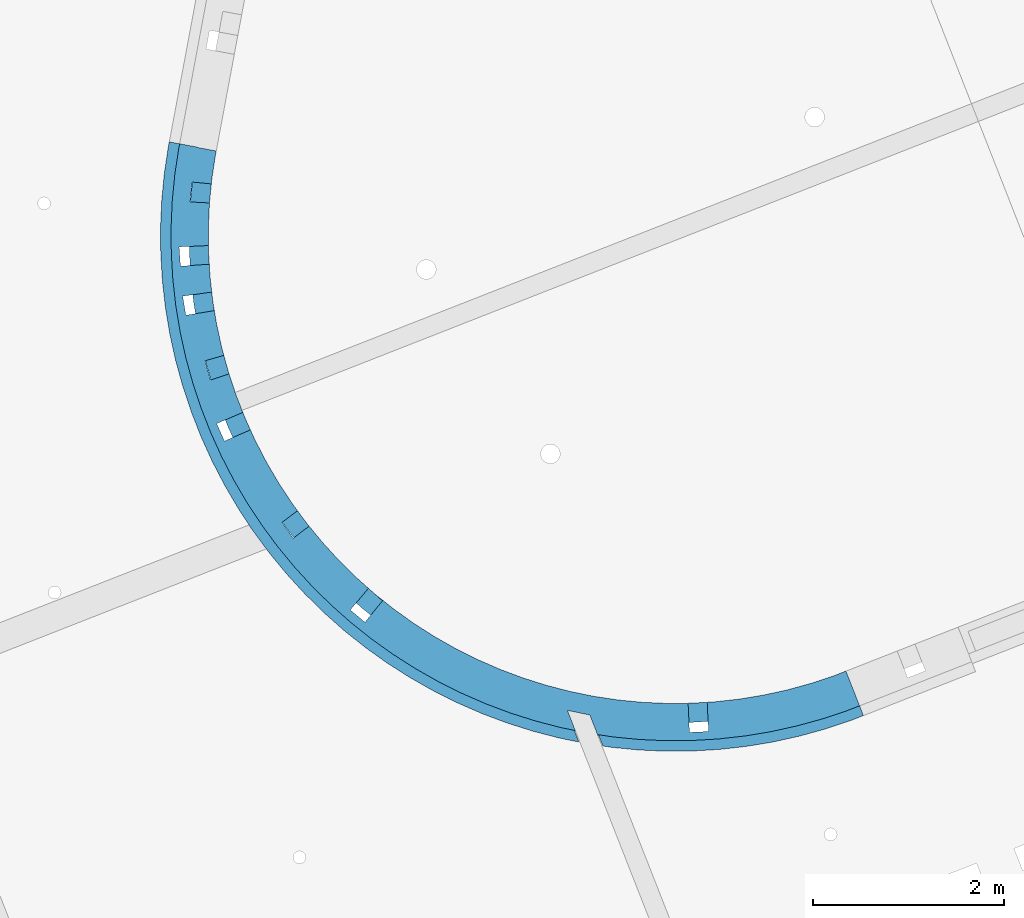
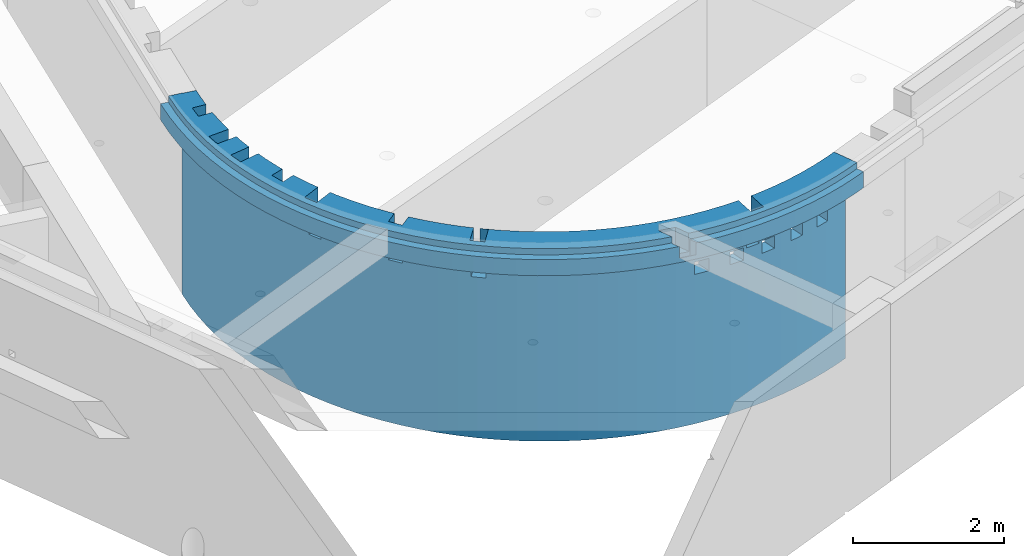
# One storey, part 15 of 28: 1 wall, 14 openings.
"""IFC2X3 building model written with IfcOpenShell, lengths in metres."""

from ifc_helpers import new_model, entity, si_unit, converted_unit, direction, frame, origin, origin_with_axes, place, context, subcontext, project, spatial, polyline, outline, extrude, clip, bounded_halfspace, material, element, save


model = new_model("IFC2X3")

# Units and contexts
model_context = context("Model", 3, precision=1e-05, world=origin(), true_north=direction((-0.407059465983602, -0.913401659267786)))
body_context = subcontext(model_context, "Body", "Model", "MODEL_VIEW")
ifc_project = project(units=[si_unit("LENGTHUNIT", "METRE"), si_unit("AREAUNIT", "SQUARE_METRE"), si_unit("VOLUMEUNIT", "CUBIC_METRE"), si_unit("MASSUNIT", "GRAM", prefix="KILO"), converted_unit("PLANEANGLEUNIT", "DEGREE", entity("IfcPlaneAngleMeasure", 0.0174532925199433), si_unit("PLANEANGLEUNIT", "RADIAN"), dimensions=[0, 0, 0, 0, 0, 0, 0])], contexts=[model_context])

# Site, buildings, storey
site_placement = place(None, origin())
site = spatial("IfcSite", under=ifc_project, at=site_placement, Name="Site", CompositionType="ELEMENT")
building_1_placement = place(site_placement, origin())
building_1 = spatial("IfcBuilding", under=site, at=building_1_placement, Name="Site", CompositionType="COMPLEX")
building_2_placement = place(building_1_placement, origin())
building_2 = spatial("IfcBuilding", under=building_1, at=building_2_placement, Name="Bâtiments", CompositionType="ELEMENT")
storey_placement = place(building_2_placement, frame((0.0, 0.0, -5.3)))
storey = spatial("IfcBuildingStorey", under=building_2, at=storey_placement, Name="SOUS-SOL", CompositionType="ELEMENT", Elevation=-5.3)

# Wall, openings
ifc_material = material(Name="Béton")
wall_placement = place(storey_placement, frame((20.0636949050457, -21.2090333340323, 1.81)))
wall = element("IfcWall", 1, at=wall_placement, inside=storey, material=ifc_material, context=body_context, shape_type="Clipping", body=[
    clip(clip(clip(clip(extrude(outline(polyline([(0.385862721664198, 6.31600778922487), (0.386182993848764, 6.31772287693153), (0.386533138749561, 6.31943211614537), (0.0915855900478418, 6.37450810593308), (0.0821501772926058, 6.32844895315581), (0.040089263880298, 6.04958070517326), (0.012680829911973, 5.76889333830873), (0.0, 5.48715619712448), (0.00208153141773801, 5.20514150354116), (0.0189197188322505, 4.9236222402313), (0.050468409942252, 4.64337003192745), (0.0966411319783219, 4.36515303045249), (0.157311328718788, 4.08973380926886), (0.23231270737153, 3.81786727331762), (0.321439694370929, 3.55029858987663), (0.424447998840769, 3.28776114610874), (0.54105528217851, 3.03097453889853), (0.670941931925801, 2.78064260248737), (0.813751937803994, 2.5374514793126), (0.969093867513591, 2.30206773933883), (1.1365419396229, 2.07513655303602), (1.3156371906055, 1.85727992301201), (1.50588873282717, 1.64909497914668), (1.70677510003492, 1.45115234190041), (1.91774567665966, 1.26399455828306), (2.13822220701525, 1.08813461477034), (2.36760038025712, 0.924054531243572), (2.60525148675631, 0.772204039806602), (2.85052414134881, 0.632999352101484), (3.10274606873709, 0.506822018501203), (3.36122594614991, 0.394017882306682), (3.62525529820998, 0.294896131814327), (3.89411043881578, 0.209728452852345), (4.1670544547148, 0.138748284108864), (4.44333922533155, 0.0821501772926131), (4.7222074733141, 0.0400892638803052), (5.00289484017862, 0.012680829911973), (5.28463198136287, 0.0), (5.56664667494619, 0.00208153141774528), (5.84816593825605, 0.0189197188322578), (6.1284181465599, 0.0504684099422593), (6.40663514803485, 0.0966411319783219), (6.68205436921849, 0.157311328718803), (6.95392090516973, 0.232312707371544), (7.22148958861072, 0.321439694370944), (7.35275830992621, 0.372943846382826), (7.24318370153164, 0.652216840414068), (7.24318274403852, 0.652216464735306), (7.17039753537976, 0.837727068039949), (7.17013396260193, 0.838398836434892), (7.05105360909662, 0.791676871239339), (6.80832881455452, 0.710825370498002), (6.56170522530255, 0.642787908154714), (6.3118588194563, 0.587750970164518), (6.05947440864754, 0.545865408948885), (5.80524376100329, 0.517246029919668), (5.54986370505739, 0.501971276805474), (5.29403421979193, 0.500083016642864), (5.03845651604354, 0.511586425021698), (4.7838311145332, 0.536449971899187), (4.53085592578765, 0.574605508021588), (4.28022433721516, 0.62594845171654), (4.03262331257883, 0.690338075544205), (3.78873150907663, 0.767597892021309), (3.54921741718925, 0.857516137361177), (3.31473752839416, 0.95984635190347), (3.08593453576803, 1.07430805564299), (2.86343557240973, 1.20058751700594), (2.64785049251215, 1.33833861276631), (2.43977019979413, 1.48718377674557), (2.23976502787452, 1.64671503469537), (2.04838317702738, 1.81649512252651), (1.86614921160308, 1.99605868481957), (1.69356262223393, 2.18491355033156), (1.53109645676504, 2.3825420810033), (1.37919602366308, 2.58840259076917), (1.2382776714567, 2.80193083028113), (1.1087276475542, 3.0225415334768), (0.990901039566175, 3.24963002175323), (0.885120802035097, 3.48257386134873), (0.791676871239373, 3.72073456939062), (0.791676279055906, 3.7207363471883), (0.779498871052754, 3.75177298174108), (0.781125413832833, 3.75241116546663), (0.710825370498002, 3.96345936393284), (0.642787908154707, 4.2100829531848), (0.587750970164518, 4.45992935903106), (0.545865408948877, 4.71231376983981), (0.517246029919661, 4.96654441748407), (0.501971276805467, 5.22192447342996), (0.500083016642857, 5.47775395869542), (0.511586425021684, 5.73333166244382), (0.536449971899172, 5.98795706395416), (0.574605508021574, 6.2409322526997), (0.582464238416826, 6.27929479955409), (0.385862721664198, 6.31600778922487)]), holes=[polyline([(0.347706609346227, 4.68473627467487), (0.337640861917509, 4.7751600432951), (0.337658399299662, 4.77500515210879), (0.347706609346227, 4.68473627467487)])]), frame((-5.38589408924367, -5.38589408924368, 0.0), z_axis=(0.0, 0.0, 1.0), x_axis=(1.0, 0.0, 0.0)), (0.0, 0.0, 1.0), 3.24), bounded_halfspace(frame((-2.76019893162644, -3.14268809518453, 2.88), z_axis=(0.0, 0.0, 1.0), x_axis=(-0.200686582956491, -0.979655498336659, 0.0)), True, origin_with_axes(), polyline([(-5.29430849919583, 0.988614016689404), (-5.30374391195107, 0.942554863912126), (-5.34580482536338, 0.663686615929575), (-5.3732132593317, 0.382999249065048), (-5.38589408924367, 0.101262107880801), (-5.38381255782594, -0.180752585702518), (-5.36697437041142, -0.462271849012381), (-5.33542567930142, -0.74252405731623), (-5.28925295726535, -1.02074105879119), (-5.22858276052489, -1.29616027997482), (-5.15358138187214, -1.56802681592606), (-5.06445439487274, -1.83559549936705), (-4.9614460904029, -2.09813294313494), (-4.84483880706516, -2.35491955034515), (-4.71495215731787, -2.60525148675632), (-4.57214215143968, -2.84844260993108), (-4.41680022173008, -3.08382634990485), (-4.24935214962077, -3.31075753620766), (-4.07025689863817, -3.52861416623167), (-3.8800053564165, -3.736799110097), (-3.67911898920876, -3.93474174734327), (-3.46814841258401, -4.12189953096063), (-3.24767188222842, -4.29775947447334), (-3.01829370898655, -4.46183955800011), (-2.78064260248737, -4.61369004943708), (-2.53536994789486, -4.7528947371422), (-2.28314802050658, -4.87907207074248), (-2.02466814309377, -4.991876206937), (-1.76063879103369, -5.09099795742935), (-1.49178365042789, -5.17616563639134), (-1.21883963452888, -5.24714580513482), (-0.942554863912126, -5.30374391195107), (-0.663686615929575, -5.34580482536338), (-0.382999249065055, -5.37321325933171), (-0.101262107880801, -5.38589408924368), (0.180752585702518, -5.38381255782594), (0.462271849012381, -5.36697437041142), (0.742524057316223, -5.33542567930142), (1.02074105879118, -5.28925295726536), (1.29616027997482, -5.22858276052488), (1.56802681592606, -5.15358138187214), (1.83559549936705, -5.06445439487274), (1.96686422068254, -5.01295024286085), (1.85728913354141, -4.73367743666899), (1.73333391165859, -4.7823120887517), (1.48067156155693, -4.86647378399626), (1.22395079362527, -4.93729681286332), (0.963875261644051, -4.99458705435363), (0.701157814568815, -5.03818747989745), (0.436518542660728, -5.06797858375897), (0.170682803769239, -5.0838787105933), (-0.0956207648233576, -5.08584427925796), (-0.361662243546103, -5.07386990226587), (-0.626712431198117, -5.04798840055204), (-0.890044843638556, -5.00827071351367), (-1.15093770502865, -4.95482570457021), (-1.40867592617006, -4.88779986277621), (-1.6625530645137, -4.80737690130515), (-1.91187326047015, -4.71377725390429), (-2.15595314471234, -4.60725747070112), (-2.39412371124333, -4.48810951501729), (-2.6257321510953, -4.35665996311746), (-2.85014364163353, -4.21326910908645), (-3.0667430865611, -4.05832997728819), (-3.2749368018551, -3.89226724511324), (-3.47415414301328, -3.71553607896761), (-3.66384906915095, -3.52862088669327), (-3.84350163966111, -3.33203398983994), (-4.01261943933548, -3.1263142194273), (-4.17073892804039, -2.91202543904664), (-4.31742671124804, -2.68975499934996), (-4.45228072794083, -2.46011212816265), (-4.57493135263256, -2.22372626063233), (-4.6850424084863, -1.98124531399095), (-4.78231208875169, -1.73333391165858), (-4.86647378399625, -1.48067156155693), (-4.93729681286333, -1.22395079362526), (-4.99458705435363, -0.963875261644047), (-5.03818747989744, -0.701157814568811), (-5.04823598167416, -0.610888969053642), (-5.06797858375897, -0.43651854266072), (-5.08387871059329, -0.170682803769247), (-5.08584427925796, 0.095620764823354), (-5.07386990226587, 0.361662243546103), (-5.04798840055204, 0.626712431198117), (-5.00827071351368, 0.890044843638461), (-4.99971109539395, 0.93182878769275), (-4.99936095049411, 0.93353802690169), (-5.29430849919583, 0.988614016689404)]))), bounded_halfspace(frame((-0.947139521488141, -5.17843894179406, 2.95), z_axis=(0.0, 0.0, -1.0), x_axis=(-0.979655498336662, 0.200686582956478, 0.0)), True, origin_with_axes(), polyline([(-0.895802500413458, -5.00709123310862), (-1.12942303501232, -4.95923307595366), (-0.998770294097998, -5.2922279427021), (-0.942554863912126, -5.30374391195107), (-0.769146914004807, -5.32989854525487), (-0.895802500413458, -5.00709123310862)]))), bounded_halfspace(frame((-3.95223097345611, -2.61201366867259, 3.14), z_axis=(0.0, 0.0, -1.0), x_axis=(-0.365248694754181, 0.930909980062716, 0.0)), True, origin_with_axes(), polyline([(-0.998770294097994, -5.2922279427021), (-1.04667629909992, -5.17012982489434), (-1.19394226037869, -5.13996176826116), (-1.46131081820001, -5.07043151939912), (-1.72467402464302, -4.98700357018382), (-1.98331001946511, -4.889906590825), (-2.23650989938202, -4.77940671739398), (-2.48357966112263, -4.65580682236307), (-2.7238421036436, -4.51944568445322), (-2.95663868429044, -4.37069706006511), (-3.1813313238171, -4.20996865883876), (-3.39730415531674, -4.03770102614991), (-3.60396521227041, -3.85436633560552), (-3.80074805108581, -3.66046709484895), (-3.98711330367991, -3.45653476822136), (-4.16255015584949, -3.24312832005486), (-4.3265777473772, -3.02083268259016), (-4.47874649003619, -2.79025715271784), (-4.61863929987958, -2.55203372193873), (-4.74587274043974, -2.30681534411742), (-4.86009807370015, -2.05527414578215), (-4.96100221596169, -1.79809958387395), (-5.04830859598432, -1.53599655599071), (-5.12177791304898, -1.26968346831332), (-5.18120879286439, -0.999890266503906), (-5.22643833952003, -0.727356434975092), (-5.25734258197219, -0.452828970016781), (-5.27383681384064, -0.17706033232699), (-5.27587582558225, 0.0991936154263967), (-5.26345402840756, 0.37517568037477), (-5.23660546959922, 0.650129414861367), (-5.19540373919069, 0.923301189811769), (-5.18616106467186, 0.968419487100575), (-5.29430849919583, 0.988614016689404), (-5.30374391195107, 0.942554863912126), (-5.34580482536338, 0.663686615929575), (-5.3732132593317, 0.382999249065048), (-5.38589408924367, 0.101262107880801), (-5.38381255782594, -0.180752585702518), (-5.36697437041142, -0.462271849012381), (-5.33542567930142, -0.74252405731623), (-5.28925295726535, -1.02074105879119), (-5.22858276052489, -1.29616027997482), (-5.15358138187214, -1.56802681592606), (-5.06445439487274, -1.83559549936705), (-4.9614460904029, -2.09813294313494), (-4.84483880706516, -2.35491955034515), (-4.71495215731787, -2.60525148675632), (-4.57214215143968, -2.84844260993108), (-4.41680022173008, -3.08382634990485), (-4.24935214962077, -3.31075753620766), (-4.07025689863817, -3.52861416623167), (-3.8800053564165, -3.736799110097), (-3.67911898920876, -3.93474174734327), (-3.46814841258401, -4.12189953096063), (-3.24767188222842, -4.29775947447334), (-3.01829370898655, -4.46183955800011), (-2.78064260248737, -4.61369004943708), (-2.53536994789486, -4.7528947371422), (-2.28314802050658, -4.87907207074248), (-2.02466814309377, -4.991876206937), (-1.76063879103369, -5.09099795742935), (-1.49178365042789, -5.17616563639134), (-1.21883963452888, -5.24714580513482), (-0.998770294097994, -5.2922279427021)]))), bounded_halfspace(frame((0.5876418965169, -5.21824595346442, 3.14), z_axis=(0.0, 0.0, -1.0), x_axis=(0.365248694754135, -0.930909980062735, 0.0)), True, origin_with_axes(), polyline([(-0.815539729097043, -5.21165709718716), (-0.769146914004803, -5.32989854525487), (-0.663686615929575, -5.34580482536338), (-0.382999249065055, -5.37321325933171), (-0.101262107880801, -5.38589408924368), (0.180752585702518, -5.38381255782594), (0.462271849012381, -5.36697437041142), (0.742524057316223, -5.33542567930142), (1.02074105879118, -5.28925295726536), (1.29616027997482, -5.22858276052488), (1.56802681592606, -5.15358138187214), (1.83559549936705, -5.06445439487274), (1.96686422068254, -5.01295024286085), (1.9266868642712, -4.91055014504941), (1.79809958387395, -4.96100221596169), (1.53599655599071, -5.04830859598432), (1.26968346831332, -5.12177791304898), (0.999890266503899, -5.18120879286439), (0.727356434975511, -5.22643833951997), (0.452828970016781, -5.25734258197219), (0.17706033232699, -5.27383681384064), (-0.099193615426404, -5.27587582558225), (-0.37517568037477, -5.26345402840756), (-0.650129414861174, -5.23660546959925), (-0.815539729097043, -5.21165709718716)]))),
    clip(clip(clip(clip(extrude(outline(polyline([(0.000700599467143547, 0.00341999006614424), (0.00064073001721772, 0.00343116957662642), (0.0, 0.0), (0.000700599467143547, 0.00341999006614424)])), frame((-4.80342985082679, 0.893400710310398, 0.0), z_axis=(0.0, 0.0, 1.0), x_axis=(1.0, 0.0, 0.0)), (0.0, 0.0, 1.0), 3.24), bounded_halfspace(frame((-2.76019893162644, -3.14268809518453, 2.88), z_axis=(0.0, 0.0, 1.0), x_axis=(-0.200686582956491, -0.979655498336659, 0.0)), True, origin_with_axes(), polyline([(-5.29430849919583, 0.988614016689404), (-5.30374391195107, 0.942554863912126), (-5.34580482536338, 0.663686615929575), (-5.3732132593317, 0.382999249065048), (-5.38589408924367, 0.101262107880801), (-5.38381255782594, -0.180752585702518), (-5.36697437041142, -0.462271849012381), (-5.33542567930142, -0.74252405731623), (-5.28925295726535, -1.02074105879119), (-5.22858276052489, -1.29616027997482), (-5.15358138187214, -1.56802681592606), (-5.06445439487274, -1.83559549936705), (-4.9614460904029, -2.09813294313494), (-4.84483880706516, -2.35491955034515), (-4.71495215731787, -2.60525148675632), (-4.57214215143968, -2.84844260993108), (-4.41680022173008, -3.08382634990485), (-4.24935214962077, -3.31075753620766), (-4.07025689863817, -3.52861416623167), (-3.8800053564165, -3.736799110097), (-3.67911898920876, -3.93474174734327), (-3.46814841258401, -4.12189953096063), (-3.24767188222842, -4.29775947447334), (-3.01829370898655, -4.46183955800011), (-2.78064260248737, -4.61369004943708), (-2.53536994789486, -4.7528947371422), (-2.28314802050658, -4.87907207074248), (-2.02466814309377, -4.991876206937), (-1.76063879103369, -5.09099795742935), (-1.49178365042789, -5.17616563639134), (-1.21883963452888, -5.24714580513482), (-0.942554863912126, -5.30374391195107), (-0.663686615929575, -5.34580482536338), (-0.382999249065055, -5.37321325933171), (-0.101262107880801, -5.38589408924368), (0.180752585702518, -5.38381255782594), (0.462271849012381, -5.36697437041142), (0.742524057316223, -5.33542567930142), (1.02074105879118, -5.28925295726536), (1.29616027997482, -5.22858276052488), (1.56802681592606, -5.15358138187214), (1.83559549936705, -5.06445439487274), (1.96686422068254, -5.01295024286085), (1.85728913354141, -4.73367743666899), (1.73333391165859, -4.7823120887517), (1.48067156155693, -4.86647378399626), (1.22395079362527, -4.93729681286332), (0.963875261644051, -4.99458705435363), (0.701157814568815, -5.03818747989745), (0.436518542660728, -5.06797858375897), (0.170682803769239, -5.0838787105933), (-0.0956207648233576, -5.08584427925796), (-0.361662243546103, -5.07386990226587), (-0.626712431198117, -5.04798840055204), (-0.890044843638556, -5.00827071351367), (-1.15093770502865, -4.95482570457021), (-1.40867592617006, -4.88779986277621), (-1.6625530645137, -4.80737690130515), (-1.91187326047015, -4.71377725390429), (-2.15595314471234, -4.60725747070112), (-2.39412371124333, -4.48810951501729), (-2.6257321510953, -4.35665996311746), (-2.85014364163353, -4.21326910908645), (-3.0667430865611, -4.05832997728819), (-3.2749368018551, -3.89226724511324), (-3.47415414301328, -3.71553607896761), (-3.66384906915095, -3.52862088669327), (-3.84350163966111, -3.33203398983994), (-4.01261943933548, -3.1263142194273), (-4.17073892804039, -2.91202543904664), (-4.31742671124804, -2.68975499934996), (-4.45228072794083, -2.46011212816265), (-4.57493135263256, -2.22372626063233), (-4.6850424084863, -1.98124531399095), (-4.78231208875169, -1.73333391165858), (-4.86647378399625, -1.48067156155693), (-4.93729681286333, -1.22395079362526), (-4.99458705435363, -0.963875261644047), (-5.03818747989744, -0.701157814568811), (-5.04823598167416, -0.610888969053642), (-5.06797858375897, -0.43651854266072), (-5.08387871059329, -0.170682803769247), (-5.08584427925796, 0.095620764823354), (-5.07386990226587, 0.361662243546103), (-5.04798840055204, 0.626712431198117), (-5.00827071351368, 0.890044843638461), (-4.99971109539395, 0.93182878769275), (-4.99936095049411, 0.93353802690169), (-5.29430849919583, 0.988614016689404)]))), bounded_halfspace(frame((-0.947139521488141, -5.17843894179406, 2.95), z_axis=(0.0, 0.0, -1.0), x_axis=(-0.979655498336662, 0.200686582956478, 0.0)), True, origin_with_axes(), polyline([(-0.895802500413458, -5.00709123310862), (-1.12942303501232, -4.95923307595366), (-0.998770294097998, -5.2922279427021), (-0.942554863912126, -5.30374391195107), (-0.769146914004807, -5.32989854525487), (-0.895802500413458, -5.00709123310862)]))), bounded_halfspace(frame((-3.95223097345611, -2.61201366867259, 3.14), z_axis=(0.0, 0.0, -1.0), x_axis=(-0.365248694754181, 0.930909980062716, 0.0)), True, origin_with_axes(), polyline([(-0.998770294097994, -5.2922279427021), (-1.04667629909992, -5.17012982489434), (-1.19394226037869, -5.13996176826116), (-1.46131081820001, -5.07043151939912), (-1.72467402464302, -4.98700357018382), (-1.98331001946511, -4.889906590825), (-2.23650989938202, -4.77940671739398), (-2.48357966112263, -4.65580682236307), (-2.7238421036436, -4.51944568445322), (-2.95663868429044, -4.37069706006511), (-3.1813313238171, -4.20996865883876), (-3.39730415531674, -4.03770102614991), (-3.60396521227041, -3.85436633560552), (-3.80074805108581, -3.66046709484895), (-3.98711330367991, -3.45653476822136), (-4.16255015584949, -3.24312832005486), (-4.3265777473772, -3.02083268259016), (-4.47874649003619, -2.79025715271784), (-4.61863929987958, -2.55203372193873), (-4.74587274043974, -2.30681534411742), (-4.86009807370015, -2.05527414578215), (-4.96100221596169, -1.79809958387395), (-5.04830859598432, -1.53599655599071), (-5.12177791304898, -1.26968346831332), (-5.18120879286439, -0.999890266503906), (-5.22643833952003, -0.727356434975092), (-5.25734258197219, -0.452828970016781), (-5.27383681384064, -0.17706033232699), (-5.27587582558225, 0.0991936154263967), (-5.26345402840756, 0.37517568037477), (-5.23660546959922, 0.650129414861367), (-5.19540373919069, 0.923301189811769), (-5.18616106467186, 0.968419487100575), (-5.29430849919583, 0.988614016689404), (-5.30374391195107, 0.942554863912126), (-5.34580482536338, 0.663686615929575), (-5.3732132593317, 0.382999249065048), (-5.38589408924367, 0.101262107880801), (-5.38381255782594, -0.180752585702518), (-5.36697437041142, -0.462271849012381), (-5.33542567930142, -0.74252405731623), (-5.28925295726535, -1.02074105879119), (-5.22858276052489, -1.29616027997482), (-5.15358138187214, -1.56802681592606), (-5.06445439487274, -1.83559549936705), (-4.9614460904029, -2.09813294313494), (-4.84483880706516, -2.35491955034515), (-4.71495215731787, -2.60525148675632), (-4.57214215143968, -2.84844260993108), (-4.41680022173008, -3.08382634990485), (-4.24935214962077, -3.31075753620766), (-4.07025689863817, -3.52861416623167), (-3.8800053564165, -3.736799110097), (-3.67911898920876, -3.93474174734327), (-3.46814841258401, -4.12189953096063), (-3.24767188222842, -4.29775947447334), (-3.01829370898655, -4.46183955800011), (-2.78064260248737, -4.61369004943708), (-2.53536994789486, -4.7528947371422), (-2.28314802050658, -4.87907207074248), (-2.02466814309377, -4.991876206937), (-1.76063879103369, -5.09099795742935), (-1.49178365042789, -5.17616563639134), (-1.21883963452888, -5.24714580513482), (-0.998770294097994, -5.2922279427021)]))), bounded_halfspace(frame((0.5876418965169, -5.21824595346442, 3.14), z_axis=(0.0, 0.0, -1.0), x_axis=(0.365248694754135, -0.930909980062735, 0.0)), True, origin_with_axes(), polyline([(-0.815539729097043, -5.21165709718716), (-0.769146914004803, -5.32989854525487), (-0.663686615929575, -5.34580482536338), (-0.382999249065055, -5.37321325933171), (-0.101262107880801, -5.38589408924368), (0.180752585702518, -5.38381255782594), (0.462271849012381, -5.36697437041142), (0.742524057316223, -5.33542567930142), (1.02074105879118, -5.28925295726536), (1.29616027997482, -5.22858276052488), (1.56802681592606, -5.15358138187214), (1.83559549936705, -5.06445439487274), (1.96686422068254, -5.01295024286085), (1.9266868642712, -4.91055014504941), (1.79809958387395, -4.96100221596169), (1.53599655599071, -5.04830859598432), (1.26968346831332, -5.12177791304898), (0.999890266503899, -5.18120879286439), (0.727356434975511, -5.22643833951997), (0.452828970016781, -5.25734258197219), (0.17706033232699, -5.27383681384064), (-0.099193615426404, -5.27587582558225), (-0.37517568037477, -5.26345402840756), (-0.650129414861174, -5.23660546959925), (-0.815539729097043, -5.21165709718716)]))),
])
opening_1_placement = place(wall_placement, frame((-0.740551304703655, -5.23398366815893, 2.88), z_axis=(0.0, 0.0, 1.0), x_axis=(-0.984873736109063, 0.173273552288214, 0.0)))
element("IfcOpeningElement", 2, at=opening_1_placement, cuts=wall, Name="Percement dans mur", ObjectType="Opening", context=body_context, shape_type="SweptSolid", body=[
    extrude(outline(polyline([(0.0722317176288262, -8.4732221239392e-16), (0.318265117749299, -7.105427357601e-18), (0.256139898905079, 0.101773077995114), (0.244670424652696, 0.101369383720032), (-4.2632564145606e-17, 0.099136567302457), (0.0601628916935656, 0.000578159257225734), (0.0722317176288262, -8.4732221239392e-16)])), origin_with_axes(), (0.0, 0.0, 1.0), 0.47),
])
opening_2_placement = place(wall_placement, frame((-4.87406975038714, 0.336627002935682, 2.62), z_axis=(0.0, 0.0, 1.0), x_axis=(0.118743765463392, 0.99292493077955, 0.0)))
element("IfcOpeningElement", 3, at=opening_2_placement, cuts=wall, Name="Percement dans mur", ObjectType="Opening", context=body_context, shape_type="SweptSolid", body=[
    extrude(outline(polyline([(0.0127007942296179, 5.79758463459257e-16), (0.0291890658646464, 0.00104918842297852), (0.152166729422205, 0.00242497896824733), (0.212741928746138, 0.0), (0.208563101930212, 0.206029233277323), (0.000460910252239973, 0.20468371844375), (0.00210360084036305, 0.199730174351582), (2.18136619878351e-15, 0.199596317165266), (0.0127007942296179, 5.79758463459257e-16)])), origin_with_axes(), (0.0, 0.0, 1.0), 0.62),
])
opening_3_placement = place(wall_placement, frame((-4.44142378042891, -2.02264690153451, 2.59), z_axis=(0.0, 0.0, 1.0), x_axis=(-0.397773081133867, 0.917483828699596, 0.0)))
element("IfcOpeningElement", 4, at=opening_3_placement, cuts=wall, Name="Percement dans mur", ObjectType="Opening", context=body_context, shape_type="SweptSolid", body=[
    extrude(outline(polyline([(1.42491574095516e-15, 0.000447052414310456), (0.0384289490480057, 0.000361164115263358), (0.133126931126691, 0.00198742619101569), (0.188875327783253, 2.49180328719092e-05), (0.20002438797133, 7.53175299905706e-16), (0.200796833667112, 0.302007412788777), (0.000669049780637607, 0.300446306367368), (1.42491574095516e-15, 0.000447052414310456)])), origin_with_axes(), (0.0, 0.0, 1.0), 0.65),
])
opening_4_placement = place(wall_placement, frame((-4.87106255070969, -0.298571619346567, 2.59), z_axis=(0.0, 0.0, 1.0), x_axis=(-0.0457052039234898, 0.998954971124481, 0.0)))
element("IfcOpeningElement", 5, at=opening_4_placement, cuts=wall, Name="Percement dans mur", ObjectType="Opening", context=body_context, shape_type="SweptSolid", body=[
    extrude(outline(polyline([(0.00265343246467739, 0.200055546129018), (0.00765214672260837, 6.37975541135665e-05), (0.0348835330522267, 5.39352099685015e-05), (0.111702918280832, 0.00197400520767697), (0.183806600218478, 4.92050844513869e-16), (0.202656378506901, 1.53350608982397e-05), (0.202730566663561, 0.200055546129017), (0.203417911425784, 0.311595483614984), (2.98427949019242e-16, 0.306362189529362), (0.00265343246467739, 0.200055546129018)])), origin_with_axes(), (0.0, 0.0, 1.0), 0.65),
])
opening_5_placement = place(wall_placement, frame((-4.81761304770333, -0.78310193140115, 2.59), z_axis=(0.0, 0.0, 1.0), x_axis=(-0.139019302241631, 0.990289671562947, 0.0)))
element("IfcOpeningElement", 6, at=opening_5_placement, cuts=wall, Name="Percement dans mur", ObjectType="Opening", context=body_context, shape_type="SweptSolid", body=[
    extrude(outline(polyline([(0.00265343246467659, 0.200055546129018), (0.00765214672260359, 6.37975541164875e-05), (0.0348835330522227, 5.3935209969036e-05), (0.111702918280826, 0.00197400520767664), (0.183806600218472, 2.52242671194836e-16), (0.202656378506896, 1.5335060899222e-05), (0.202730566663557, 0.200055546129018), (0.203417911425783, 0.311595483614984), (5.11590769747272e-16, 0.306362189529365), (0.00265343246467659, 0.200055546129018)])), origin_with_axes(), (0.0, 0.0, 1.0), 0.65),
])
opening_6_placement = place(wall_placement, frame((0.332337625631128, -4.87370489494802, 2.59), z_axis=(0.0, 0.0, 1.0), x_axis=(-0.998634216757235, -0.0522465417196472, 0.0)))
element("IfcOpeningElement", 7, at=opening_6_placement, cuts=wall, Name="Percement dans mur", ObjectType="Opening", context=body_context, shape_type="SweptSolid", body=[
    extrude(outline(polyline([(1.50899345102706e-15, 0.000147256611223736), (0.168671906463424, 0.00140731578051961), (0.200001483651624, 1.81188397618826e-16), (0.201423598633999, 0.305315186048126), (0.00142576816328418, 0.30624674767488), (1.50899345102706e-15, 0.000147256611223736)])), origin_with_axes(), (0.0, 0.0, 1.0), 0.65),
])
opening_7_placement = place(wall_placement, frame((0.0935017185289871, -4.88165519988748, 2.41), z_axis=(0.0, 0.0, 1.0), x_axis=(-0.999972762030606, -0.00738073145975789, 0.0)))
element("IfcOpeningElement", 8, at=opening_7_placement, cuts=wall, Name="Percement dans mur", ObjectType="Opening", context=body_context, shape_type="SweptSolid", body=[
    extrude(outline(polyline([(0.0388007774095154, 0.00278765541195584), (0.185387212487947, 0.00278765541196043), (0.236911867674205, 8.73626553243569e-05), (0.243321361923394, 0.0), (0.201894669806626, 0.21191328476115), (0.0775014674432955, 0.202787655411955), (5.24025267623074e-16, 0.20321145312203), (0.0388007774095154, 0.00278765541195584)])), origin_with_axes(), (0.0, 0.0, 1.0), 0.2),
])
opening_8_placement = place(wall_placement, frame((0.565135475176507, -4.84846637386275, 2.41), z_axis=(0.0, 0.0, 1.0), x_axis=(-0.99372331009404, -0.111865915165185, 0.0)))
element("IfcOpeningElement", 9, at=opening_8_placement, cuts=wall, Name="Percement dans mur", ObjectType="Opening", context=body_context, shape_type="SweptSolid", body=[
    extrude(outline(polyline([(0.0175251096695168, 0.00374654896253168), (0.147128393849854, 0.00374654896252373), (0.218616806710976, -3.5527136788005e-18), (0.200604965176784, 0.205882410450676), (0.0438920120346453, 0.203746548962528), (1.13686837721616e-16, 0.204458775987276), (0.0175251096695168, 0.00374654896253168)])), origin_with_axes(), (0.0, 0.0, 1.0), 0.2),
])
opening_9_placement = place(wall_placement, frame((-3.02899374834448, -3.99510675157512, 2.59), z_axis=(0.0, 0.0, 1.0), x_axis=(-0.186795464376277, 0.982398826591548, 0.0)))
element("IfcOpeningElement", 10, at=opening_9_placement, cuts=wall, Name="Percement dans mur", ObjectType="Opening", context=body_context, shape_type="SweptSolid", body=[
    extrude(outline(polyline([(0.000457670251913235, 0.222404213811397), (0.0615895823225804, 0.149076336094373), (0.186134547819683, -4.05009359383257e-16), (0.342327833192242, 0.120533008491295), (0.154750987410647, 0.349644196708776), (7.24753590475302e-16, 0.222947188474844), (0.000457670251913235, 0.222404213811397)])), origin_with_axes(), (0.0, 0.0, 1.0), 0.65),
])
opening_10_placement = place(wall_placement, frame((-3.8312144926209, -3.03209928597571, 2.62), z_axis=(0.0, 0.0, 1.0), x_axis=(-0.600718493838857, 0.799460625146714, 0.0)))
element("IfcOpeningElement", 11, at=opening_10_placement, cuts=wall, Name="Percement dans mur", ObjectType="Opening", context=body_context, shape_type="SweptSolid", body=[
    extrude(outline(polyline([(0.000873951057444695, 1.14852571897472e-15), (0.0371491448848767, 0.00158477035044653), (0.203293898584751, 0.000139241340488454), (0.202443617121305, 0.202943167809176), (8.5265128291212e-16, 0.208449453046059), (0.000873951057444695, 1.14852571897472e-15)])), origin_with_axes(), (0.0, 0.0, 1.0), 0.62),
])
opening_11_placement = place(wall_placement, frame((-4.66660693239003, -1.45039005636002, 2.62), z_axis=(0.0, 0.0, 1.0), x_axis=(-0.255140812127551, 0.96690390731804, 0.0)))
element("IfcOpeningElement", 12, at=opening_11_placement, cuts=wall, Name="Percement dans mur", ObjectType="Opening", context=body_context, shape_type="SweptSolid", body=[
    extrude(outline(polyline([(0.0127007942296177, -2.57571741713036e-16), (0.0291890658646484, 0.00104918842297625), (0.152166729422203, 0.00242497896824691), (0.212741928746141, -7.105427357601e-18), (0.208563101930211, 0.206029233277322), (0.000460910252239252, 0.20468371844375), (0.00210360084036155, 0.199730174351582), (-1.81188397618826e-15, 0.199596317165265), (0.0127007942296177, -2.57571741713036e-16)])), origin_with_axes(), (0.0, 0.0, 1.0), 0.62),
])
opening_12_placement = place(wall_placement, frame((-0.399510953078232, -4.87023504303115, 2.41), z_axis=(0.0, 0.0, 1.0), x_axis=(-0.993620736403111, 0.112773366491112, 0.0)))
element("IfcOpeningElement", 13, at=opening_12_placement, cuts=wall, Name="Percement dans mur", ObjectType="Opening", context=body_context, shape_type="SweptSolid", body=[
    extrude(outline(polyline([(0.0642728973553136, 1.15463194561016e-15), (0.203604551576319, 0.00218417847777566), (0.263116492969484, -1.66977542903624e-16), (0.274444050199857, -3.5527136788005e-18), (0.209100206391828, 0.20688184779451), (2.39452901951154e-15, 0.199017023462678), (0.0642728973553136, 1.15463194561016e-15)])), origin_with_axes(), (0.0, 0.0, 1.0), 0.2),
])
opening_13_placement = place(wall_placement, frame((1.01913408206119, -4.77767952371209, 2.41), z_axis=(0.0, 0.0, 1.0), x_axis=(-0.982216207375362, -0.187753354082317, 0.0)))
element("IfcOpeningElement", 14, at=opening_13_placement, cuts=wall, Name="Percement dans mur", ObjectType="Opening", context=body_context, shape_type="SweptSolid", body=[
    extrude(outline(polyline([(0.00209830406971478, 1.66788804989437e-15), (0.0953545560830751, 0.00260681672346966), (0.202109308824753, -7.105427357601e-18), (0.199976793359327, 0.20328064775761), (0.0948948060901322, 0.202672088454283), (0.000554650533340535, 0.204880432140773), (1.30029320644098e-15, 0.200019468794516), (0.00209830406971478, 1.66788804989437e-15)])), origin_with_axes(), (0.0, 0.0, 1.0), 0.2),
])
opening_14_placement = place(wall_placement, frame((1.47175220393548, -4.65864109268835, 2.41), z_axis=(0.0, 0.0, 1.0), x_axis=(-0.960295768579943, -0.278983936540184, 0.0)))
element("IfcOpeningElement", 15, at=opening_14_placement, cuts=wall, Name="Percement dans mur", ObjectType="Opening", context=body_context, shape_type="SweptSolid", body=[
    extrude(outline(polyline([(0.0, 0.0), (0.0519424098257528, 0.00201659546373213), (0.200697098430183, -1.12976294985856e-15), (0.218022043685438, 0.207322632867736), (0.0176128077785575, 0.210767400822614), (0.0, 0.0)])), origin_with_axes(), (0.0, 0.0, 1.0), 0.2),
])

save(model, "model.ifc")
